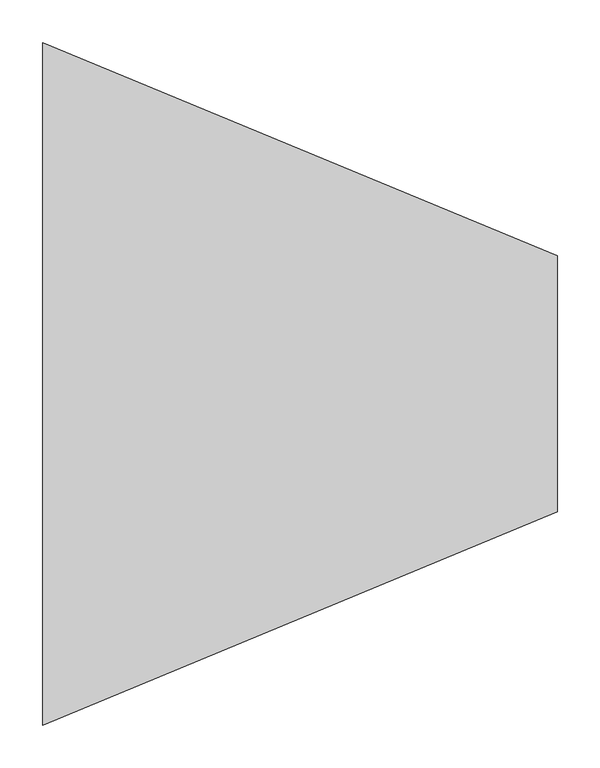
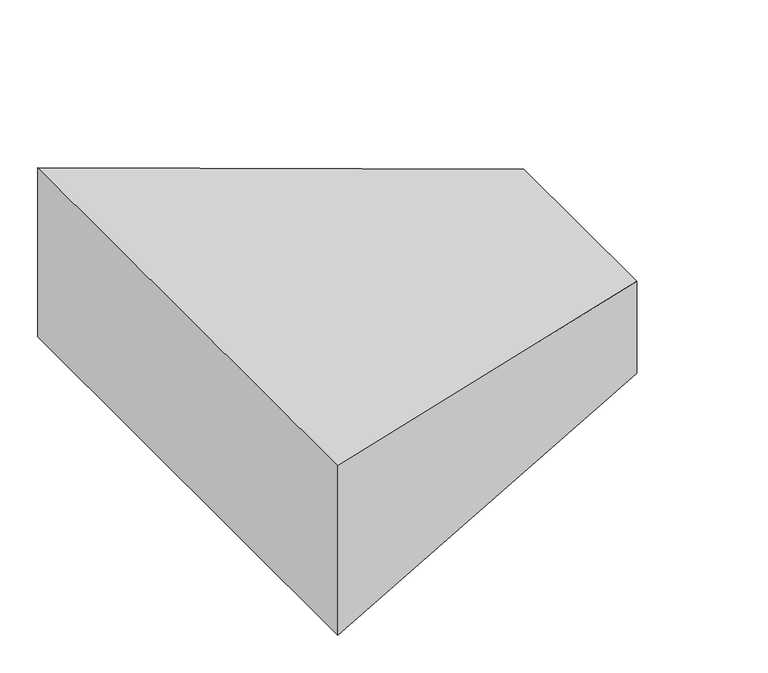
"""IFC4 building model written with IfcOpenShell, lengths in millimetres: duct fitting geometry, M_Transición rectangular - Ángulo : EXT_45 graus."""

import ifcopenshell
import ifcopenshell.guid

model = None  # the IFC model being written
_history = None  # IfcOwnerHistory: only IFC2X3 demands one
_inside = {}  # id of a spatial element -> (the spatial element, [elements in it])
_under = {}  # id of a project, library or spatial element -> (it, [spatial elements below it])
_declared = {}  # id of a project -> (the project, [libraries it declares])
_typed = {}  # id of a type object -> (the type object, [elements of that type])
_made_of = {}  # id of a material, layer set ... -> (it, [elements and type objects made of it])


def new_model(schema):
    """Start an empty IFC model of exactly this schema.

    Asked for "IFC4X3", IfcOpenShell would pick the latest addendum, in which some entities
    have other attributes; the version numbers below select the first issue.
    IFC2X3 requires an IfcOwnerHistory on every rooted entity: one is made here for all.
    """
    global model, _history
    if schema == "IFC4X3":
        model = ifcopenshell.file(schema_version=(4, 3, 0, 0))
    else:
        model = ifcopenshell.file(schema=schema)
    _inside.clear()
    _under.clear()
    _declared.clear()
    _typed.clear()
    _made_of.clear()
    _history = None
    if model.schema == "IFC2X3":
        org = make("IfcOrganization", Name="unknown")
        user = make(
            "IfcPersonAndOrganization",
            ThePerson=make("IfcPerson", FamilyName="unknown"),
            TheOrganization=org,
        )
        app = make(
            "IfcApplication",
            ApplicationDeveloper=org,
            Version="unknown",
            ApplicationFullName="unknown",
            ApplicationIdentifier="unknown",
        )
        _history = make(
            "IfcOwnerHistory",
            OwningUser=user,
            OwningApplication=app,
            ChangeAction="ADDED",
            CreationDate=0,
        )
    return model


def make(cls, **values):
    """One entity of the class cls with the attributes given. An attribute that is None is left unset."""
    return model.create_entity(
        cls, **{name: value for name, value in values.items() if value is not None}
    )


def rooted(cls, **values):
    """An entity with a GlobalId (a new one), such as an element, a storey or a relation."""
    return make(cls, GlobalId=ifcopenshell.guid.new(), OwnerHistory=_history, **values)


def si_unit(unit_type, name, prefix=None):
    """IfcSIUnit, for example si_unit("LENGTHUNIT", "METRE", prefix="MILLI")."""
    return make("IfcSIUnit", UnitType=unit_type, Prefix=prefix, Name=name)


def assignment(units):
    """IfcUnitAssignment: the units of a project."""
    return None if units is None else make("IfcUnitAssignment", Units=units)


def point(xyz):
    """IfcCartesianPoint."""
    return None if xyz is None else make("IfcCartesianPoint", Coordinates=xyz)


def direction(xyz):
    """IfcDirection."""
    return None if xyz is None else make("IfcDirection", DirectionRatios=xyz)


def frame(location, z_axis=None, x_axis=None):
    """IfcAxis2Placement3D, a coordinate frame: its origin and axes. An axis left out is left unset."""
    return make(
        "IfcAxis2Placement3D",
        Location=point(location),
        Axis=direction(z_axis),
        RefDirection=direction(x_axis),
    )


def origin():
    """The frame at (0, 0, 0) with its axes left unset."""
    return frame((0.0, 0.0, 0.0))


def place(relative_to, where):
    """IfcLocalPlacement: puts the frame where relative to a parent placement (None: the world)."""
    return make(
        "IfcLocalPlacement", PlacementRelTo=relative_to, RelativePlacement=where
    )


def context(
    kind, dimensions, precision=None, world=None, true_north=None, identifier=None
):
    """IfcGeometricRepresentationContext, for example the 3D "Model" context."""
    return make(
        "IfcGeometricRepresentationContext",
        ContextIdentifier=identifier,
        ContextType=kind,
        CoordinateSpaceDimension=dimensions,
        Precision=precision,
        WorldCoordinateSystem=world,
        TrueNorth=true_north,
    )


def project(units=None, contexts=None):
    """IfcProject with its units and contexts."""
    return rooted(
        "IfcProject",
        Name="project",
        RepresentationContexts=contexts,
        UnitsInContext=assignment(units),
    )


def spatial(cls, under=None, at=None, **own):
    """A site, building, storey or space (cls), placed at a placement, below another one or the project."""
    s = rooted(cls, ObjectPlacement=at, **own)
    if under is not None:
        _under.setdefault(under.id(), (under, []))[1].append(s)
    return s


def faces_of(points, faces, orient=None, outer=None):
    """IfcFace entities. A face is a list of loops; a loop is a list of indices into points, from 0.

    orient and outer hold one flag for each loop. By default every Orientation is true, the
    first loop of a face is its IfcFaceOuterBound and the others are IfcFaceBound.
    """
    made = []
    for i, loops in enumerate(faces):
        bounds = []
        for j, loop in enumerate(loops):
            is_outer = j == 0 if outer is None else outer[i][j]
            bounds.append(
                make(
                    "IfcFaceOuterBound" if is_outer else "IfcFaceBound",
                    Bound=make("IfcPolyLoop", Polygon=[points[k] for k in loop]),
                    Orientation=True if orient is None else orient[i][j],
                )
            )
        made.append(make("IfcFace", Bounds=bounds))
    return made


def faceted_brep(points, faces, orient=None, outer=None, voids=None):
    """IfcFacetedBrep: a solid bounded by flat faces; with voids (closed shells), ...WithVoids."""
    shared = [point(p) for p in points]
    hull = make("IfcClosedShell", CfsFaces=faces_of(shared, faces, orient, outer))
    if voids is None:
        return make("IfcFacetedBrep", Outer=hull)
    return make(
        "IfcFacetedBrepWithVoids",
        Outer=hull,
        Voids=[
            make(cls, CfsFaces=faces_of(shared, fs, o, b)) for cls, fs, o, b in voids
        ],
    )


def shape(context_of_items, identifier, shape_type, items):
    """IfcShapeRepresentation: the items that make up one representation, for example the "Body"."""
    return make(
        "IfcShapeRepresentation",
        ContextOfItems=context_of_items,
        RepresentationIdentifier=identifier,
        RepresentationType=shape_type,
        Items=items,
    )


def source(mapping_origin, context_of_items, identifier, shape_type, items):
    """IfcRepresentationMap: a shape defined once, which mapped items show again and again."""
    return make(
        "IfcRepresentationMap",
        MappingOrigin=mapping_origin,
        MappedRepresentation=shape(context_of_items, identifier, shape_type, items),
    )


def transform(
    local_origin,
    x_axis=None,
    y_axis=None,
    z_axis=None,
    scale=None,
    scale2=None,
    scale3=None,
    uniform=True,
):
    """IfcCartesianTransformationOperator3D, or its non-uniform kind. x_axis, y_axis, z_axis: its Axis1, 2, 3."""
    if uniform:
        return make(
            "IfcCartesianTransformationOperator3D",
            Axis1=direction(x_axis),
            Axis2=direction(y_axis),
            LocalOrigin=point(local_origin),
            Scale=scale,
            Axis3=direction(z_axis),
        )
    return make(
        "IfcCartesianTransformationOperator3DnonUniform",
        Axis1=direction(x_axis),
        Axis2=direction(y_axis),
        LocalOrigin=point(local_origin),
        Scale=scale,
        Axis3=direction(z_axis),
        Scale2=scale2,
        Scale3=scale3,
    )


def mapped(mapping_source, mapping_target):
    """IfcMappedItem: shows the shape of a source again, moved by a transform."""
    return make(
        "IfcMappedItem", MappingSource=mapping_source, MappingTarget=mapping_target
    )


def made_of(thing, what):
    """Note that an element or type object is made of a material, layer set ...; save() writes the relation."""
    if what is not None:
        _made_of.setdefault(what.id(), (what, []))[1].append(thing)
    return thing


def element(
    cls,
    number,
    at=None,
    inside=None,
    cuts=None,
    type_object=None,
    material=None,
    context=None,
    identifier="Body",
    shape_type=None,
    held_by="IfcProductDefinitionShape",
    body=None,
    shapes=None,
    **own,
):
    """One element of the class cls, such as IfcWall. Its Tag is "e" and its number.

    at: its placement. inside: the storey or other place that contains it. cuts: it is an
    opening in that element (IfcRelVoidsElement). A single representation is given by context,
    identifier, shape_type and body (its items); several are given by shapes. held_by: the class
    of the entity that holds the representations. save() writes the other relations.
    """
    e = rooted(cls, Tag="e%d" % number, ObjectPlacement=at, **own)
    if body is not None:
        shapes = [shape(context, identifier, shape_type, body)]
    if shapes is not None:
        e.Representation = make(held_by, Representations=shapes)
    if inside is not None:
        _inside.setdefault(inside.id(), (inside, []))[1].append(e)
    if cuts is not None:
        rooted(
            "IfcRelVoidsElement", RelatingBuildingElement=cuts, RelatedOpeningElement=e
        )
    if type_object is not None:
        _typed.setdefault(type_object.id(), (type_object, []))[1].append(e)
    return made_of(e, material)


def aggregate(whole, parts):
    """IfcRelAggregates: a whole, such as a stair, and the parts it consists of."""
    return rooted("IfcRelAggregates", RelatingObject=whole, RelatedObjects=parts)


def save(model, path):
    """Write the relations noted so far, then the file.

    IfcRelAggregates (storeys below a building ...), IfcRelContainedInSpatialStructure (elements
    in a storey), IfcRelDefinesByType, IfcRelAssociatesMaterial and IfcRelDeclares: one each for
    every whole, place, type object, material and project.
    """
    for whole, parts in _under.values():
        aggregate(whole, parts)
    for where, things in _inside.values():
        rooted(
            "IfcRelContainedInSpatialStructure",
            RelatedElements=things,
            RelatingStructure=where,
        )
    for kind, things in _typed.values():
        rooted("IfcRelDefinesByType", RelatedObjects=things, RelatingType=kind)
    for what, things in _made_of.values():
        rooted("IfcRelAssociatesMaterial", RelatedObjects=things, RelatingMaterial=what)
    for by, libraries in _declared.values():
        rooted("IfcRelDeclares", RelatingContext=by, RelatedDefinitions=libraries)
    model.write(path)


def duct_fitting_83e7c145(model_context):
    return source(origin(), model_context, "Body", "Brep", [
        faceted_brep([(603.5533906, -150.0, 75.0), (603.5533906, -150.0, -75.0), (603.5533906, 150.0, -75.0), (603.5533906, 150.0, 75.0), (0.0, -400.0, 137.5), (0.0, 400.0, 137.5), (0.0, 400.0, -137.5), (0.0, -400.0, -137.5)], [[[0, 1, 2, 3]], [[4, 5, 6, 7]], [[4, 7, 1, 0]], [[7, 6, 2, 1]], [[6, 5, 3, 2]], [[5, 4, 0, 3]]]),
    ])


if __name__ == "__main__":
    model = new_model("IFC4")
    model_context = context("Model", 3, world=origin())
    ifc_project = project(units=[si_unit("LENGTHUNIT", "METRE", prefix="MILLI")], contexts=[model_context])
    site = spatial("IfcSite", under=ifc_project)
    building = spatial("IfcBuilding", under=site)
    placement = place(None, origin())
    duct_fitting_shape = duct_fitting_83e7c145(model_context)
    element("IfcDuctFitting", 1, ObjectType="M_Transición rectangular - Ángulo : EXT_45 graus", at=placement, inside=building, context=model_context, shape_type="MappedRepresentation", body=[
        mapped(duct_fitting_shape, transform((0.0, 0.0, 0.0), x_axis=(1.0, 0.0, 0.0), y_axis=(0.0, 1.0, 0.0), z_axis=(0.0, 0.0, 1.0))),
    ])
    save(model, "model.ifc")
